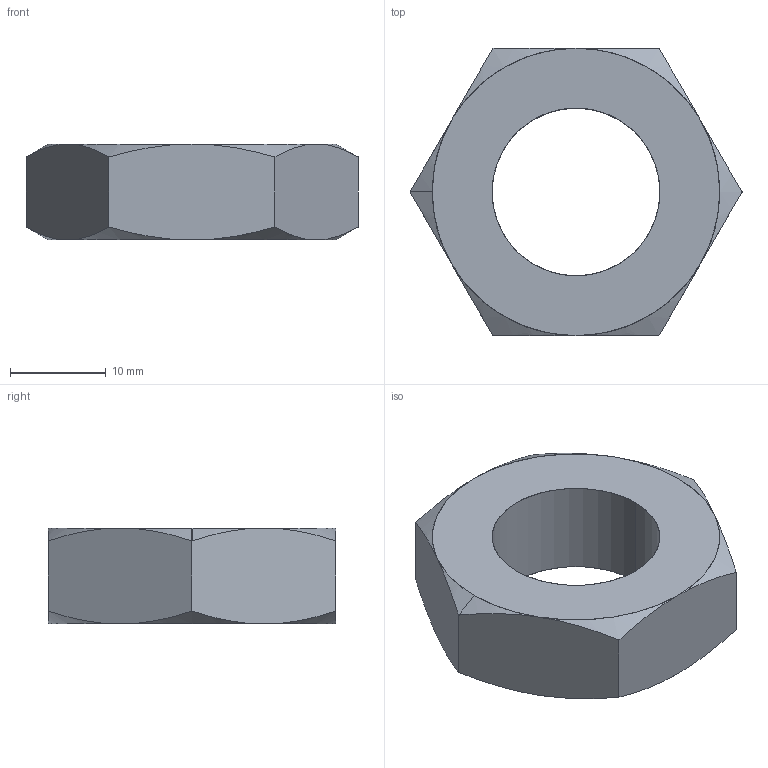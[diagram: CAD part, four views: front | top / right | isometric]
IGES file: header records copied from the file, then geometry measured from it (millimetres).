
Start section: SolidWorks IGES file using analytic representation for surfaces
Global section: file name: C:\Documents and Settings\IANO\My Documents\Wix and Auto CAD Work\CAD Models\Parametric Models\Wix Models\30000\32712_v2\32700_NUT_IGES\32700.W0520.igs; native system: SolidWorks 2009; preprocessor: SolidWorks 2009; author: IANO; date: 160630.185158; units: millimetre
Bounding box: 34.64 x 30 x 10 mm (x, y, z)
Surface area: 2593.7 mm2 (no closed solid volume)
Topology: 0 solids, 0 shells, 24 faces, 390 edges, 390 vertices
Faces by surface type: revolution 16, bspline 8
